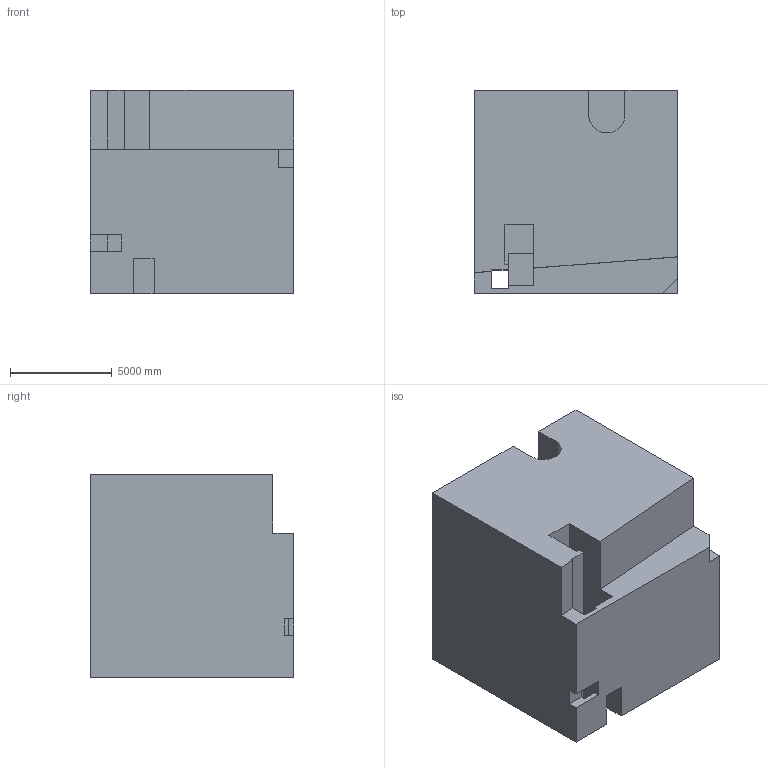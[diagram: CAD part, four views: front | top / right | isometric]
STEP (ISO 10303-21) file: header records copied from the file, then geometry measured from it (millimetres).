
FILE_DESCRIPTION (( 'STEP AP203' ), '1' );
FILE_NAME ('183.STEP', '2022-09-06T12:40:32', ( 'user' ), ( '' ), 'SwSTEP 2.0', 'SolidWorks 2021', '' );
FILE_SCHEMA (( 'CONFIG_CONTROL_DESIGN' ));
Length unit declared in the file: centimetre
Products named in the file (1): 183
Bounding box: 10000 x 10000 x 10000 mm (x, y, z)
Volume: 904275731527.5 mm3; surface area: 685578157.6 mm2
Topology: 1 solids, 1 shells, 40 faces, 122 edges, 81 vertices
Faces by surface type: plane 37, cylinder 3
Entity records: 1429 total; most frequent: ORIENTED_EDGE 244, CARTESIAN_POINT 244, DIRECTION 210, EDGE_CURVE 122, VECTOR 116, LINE 116, VERTEX_POINT 81, AXIS2_PLACEMENT_3D 47
